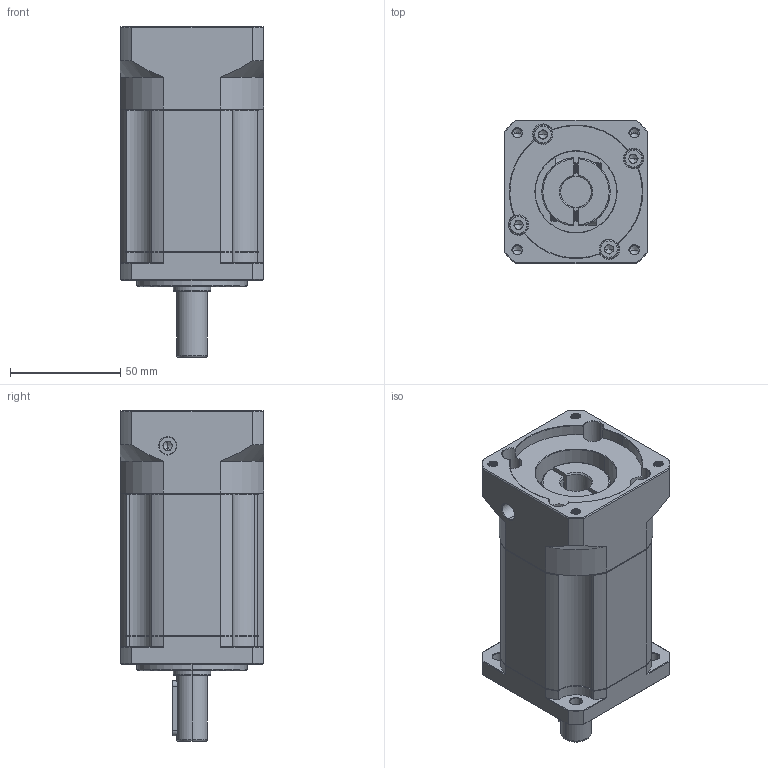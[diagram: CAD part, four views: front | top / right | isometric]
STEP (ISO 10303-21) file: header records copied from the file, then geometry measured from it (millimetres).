
FILE_DESCRIPTION (( 'STEP AP214' ), '1' );
FILE_NAME ('ZB60-D14-L3-14-60-75-M5.STEP', '2022-04-17T07:37:40', ( '' ), ( 'Microsoft' ), 'SwSTEP 2.0', 'SolidWorks 2016', '' );
FILE_SCHEMA (( 'AUTOMOTIVE_DESIGN' ));
Length unit declared in the file: millimetre
Products named in the file (1): ZB60-D14-L3-14-60-75-M5
Bounding box: 65 x 65 x 150 mm (x, y, z)
Volume: 385588.3 mm3; surface area: 62409 mm2
Topology: 6 solids, 6 shells, 1894 faces, 5036 edges, 3221 vertices
Faces by surface type: plane 879, cylinder 396, bspline 299, cone 284, torus 36
Entity records: 102095 total; most frequent: CARTESIAN_POINT 36598, ORIENTED_EDGE 10012, DIRECTION 8205, EDGE_CURVE 5006, VERTEX_POINT 3221, VECTOR 3037, LINE 3037, AXIS2_PLACEMENT_3D 2584
